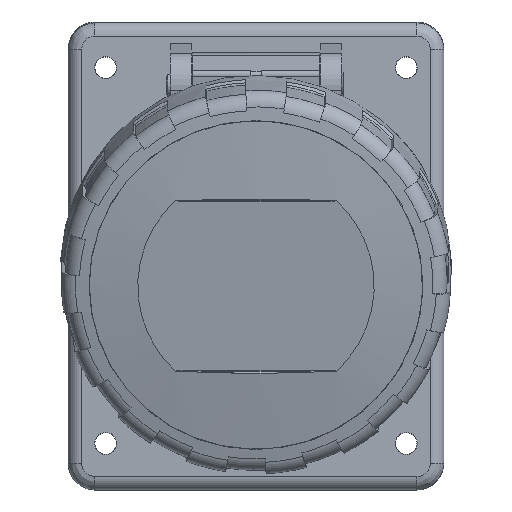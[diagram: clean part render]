
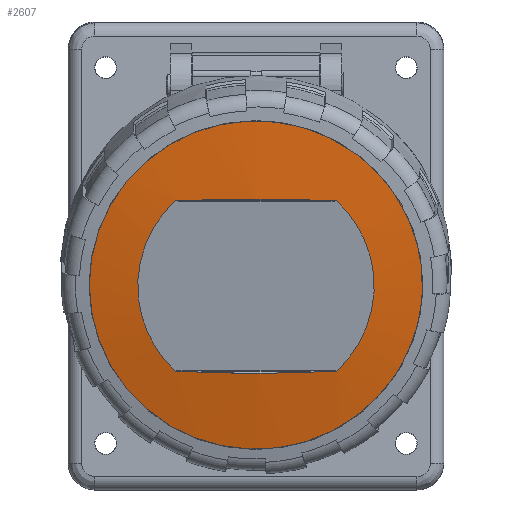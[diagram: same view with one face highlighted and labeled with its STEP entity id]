
A CAD part, top view. The second image highlights one B-rep face of the part: STEP entity #2607.
In plain terms, the highlighted spherical face has radius 256 mm.
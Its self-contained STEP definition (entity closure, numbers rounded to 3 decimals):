
#579=SPHERICAL_SURFACE('',#21483,256.);
#2607=ADVANCED_FACE('',(#7090,#7091),#579,.T.);
#4131=B_SPLINE_CURVE_WITH_KNOTS('',3,(#31174,#31175,#31176,#31177,#31178,
#31179),.UNSPECIFIED.,.F.,.F.,(4,2,4),(0.,0.5,1.),.UNSPECIFIED.);
#4132=B_SPLINE_CURVE_WITH_KNOTS('',3,(#31182,#31183,#31184,#31185),
 .UNSPECIFIED.,.F.,.F.,(4,4),(0.,1.),.UNSPECIFIED.);
#4133=B_SPLINE_CURVE_WITH_KNOTS('',3,(#31187,#31188,#31189,#31190,#31191,
#31192),.UNSPECIFIED.,.F.,.F.,(4,2,4),(0.,0.5,1.),.UNSPECIFIED.);
#4134=B_SPLINE_CURVE_WITH_KNOTS('',3,(#31194,#31195,#31196,#31197),
 .UNSPECIFIED.,.F.,.F.,(4,4),(0.,1.),.UNSPECIFIED.);
#7090=FACE_BOUND('',#7600,.T.);
#7091=FACE_BOUND('',#7601,.T.);
#7600=EDGE_LOOP('',(#9709,#9710,#9711,#9712));
#7601=EDGE_LOOP('',(#9713));
#9709=ORIENTED_EDGE('',*,*,#17366,.F.);
#9710=ORIENTED_EDGE('',*,*,#17367,.F.);
#9711=ORIENTED_EDGE('',*,*,#17368,.F.);
#9712=ORIENTED_EDGE('',*,*,#17369,.F.);
#9713=ORIENTED_EDGE('',*,*,#17370,.T.);
#15282=VERTEX_POINT('',#31180);
#15283=VERTEX_POINT('',#31181);
#15284=VERTEX_POINT('',#31186);
#15285=VERTEX_POINT('',#31193);
#15286=VERTEX_POINT('',#31199);
#17366=EDGE_CURVE('',#15282,#15283,#4131,.T.);
#17367=EDGE_CURVE('',#15284,#15282,#4132,.T.);
#17368=EDGE_CURVE('',#15285,#15284,#4133,.T.);
#17369=EDGE_CURVE('',#15283,#15285,#4134,.T.);
#17370=EDGE_CURVE('',#15286,#15286,#20109,.T.);
#20109=CIRCLE('',#21482,31.1);
#21482=AXIS2_PLACEMENT_3D('',#31198,#24573,#24574);
#21483=AXIS2_PLACEMENT_3D('',#31200,#24575,#24576);
#24573=DIRECTION('',(0.,-0.174,0.985));
#24574=DIRECTION('',(0.,-0.985,-0.174));
#24575=DIRECTION('',(0.,-0.985,-0.174));
#24576=DIRECTION('',(1.,0.,0.));
#31174=CARTESIAN_POINT('',(14.978,-17.846,45.307));
#31175=CARTESIAN_POINT('',(19.428,-13.784,46.023));
#31176=CARTESIAN_POINT('',(22.033,-7.907,47.059));
#31177=CARTESIAN_POINT('',(22.033,4.043,49.166));
#31178=CARTESIAN_POINT('',(19.429,9.919,50.202));
#31179=CARTESIAN_POINT('',(14.978,13.982,50.919));
#31180=CARTESIAN_POINT('',(14.978,-17.846,45.307));
#31181=CARTESIAN_POINT('',(14.978,13.982,50.919));
#31182=CARTESIAN_POINT('',(-14.98,-17.846,45.307));
#31183=CARTESIAN_POINT('',(-5.011,-18.402,45.773));
#31184=CARTESIAN_POINT('',(5.01,-18.402,45.773));
#31185=CARTESIAN_POINT('',(14.978,-17.846,45.307));
#31186=CARTESIAN_POINT('',(-14.98,-17.846,45.307));
#31187=CARTESIAN_POINT('',(-14.98,13.982,50.919));
#31188=CARTESIAN_POINT('',(-19.43,9.92,50.203));
#31189=CARTESIAN_POINT('',(-22.035,4.043,49.166));
#31190=CARTESIAN_POINT('',(-22.035,-7.907,47.059));
#31191=CARTESIAN_POINT('',(-19.431,-13.783,46.023));
#31192=CARTESIAN_POINT('',(-14.98,-17.846,45.307));
#31193=CARTESIAN_POINT('',(-14.98,13.982,50.919));
#31194=CARTESIAN_POINT('',(14.978,13.982,50.919));
#31195=CARTESIAN_POINT('',(5.01,14.345,51.547));
#31196=CARTESIAN_POINT('',(-5.011,14.345,51.547));
#31197=CARTESIAN_POINT('',(-14.98,13.982,50.919));
#31198=CARTESIAN_POINT('',(-0.001,-1.768,47.181));
#31199=CARTESIAN_POINT('',(-0.001,-32.395,41.78));
#31200=CARTESIAN_POINT('',(-0.001,42.357,-203.063));
